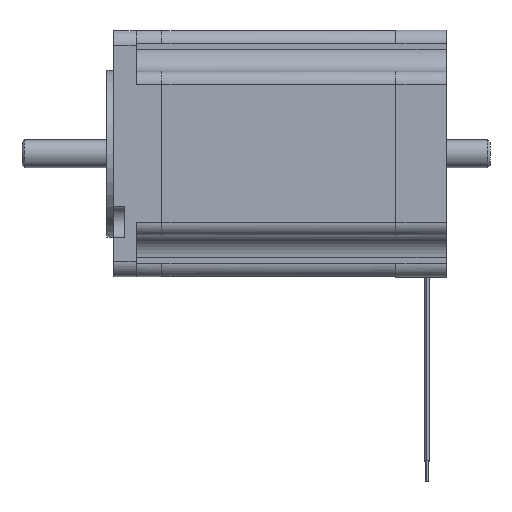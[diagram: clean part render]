
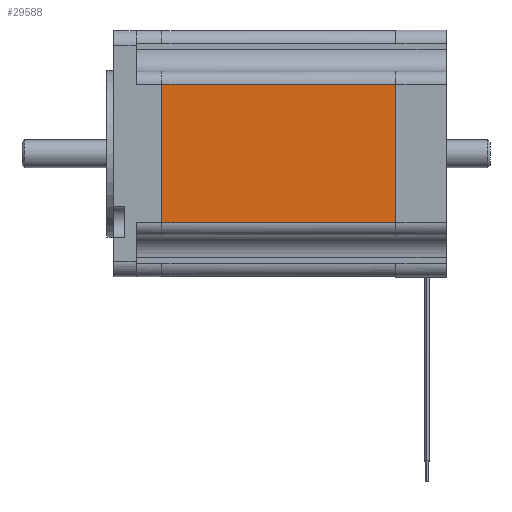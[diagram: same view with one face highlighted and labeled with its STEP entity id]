
A CAD part, top view. The second image highlights one B-rep face of the part: STEP entity #29588.
In plain terms, the highlighted planar face has unit normal (0, 0, 1).
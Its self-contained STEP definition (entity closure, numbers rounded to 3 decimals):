
#10646=CARTESIAN_POINT('',(64.494,15.8,28.1));
#10647=VERTEX_POINT('',#10646);
#10655=CARTESIAN_POINT('',(64.494,-15.8,28.1));
#10656=VERTEX_POINT('',#10655);
#10657=CARTESIAN_POINT('',(64.494,-15.8,28.1));
#10658=DIRECTION('',(0.,1.,0.));
#10659=VECTOR('',#10658,31.6);
#10660=LINE('',#10657,#10659);
#10661=EDGE_CURVE('',#10656,#10647,#10660,.T.);
#29547=CARTESIAN_POINT('',(11.,15.8,28.1));
#29548=VERTEX_POINT('',#29547);
#29556=CARTESIAN_POINT('',(64.494,15.8,28.1));
#29557=DIRECTION('',(-1.,0.,0.));
#29558=VECTOR('',#29557,53.494);
#29559=LINE('',#29556,#29558);
#29560=EDGE_CURVE('',#10647,#29548,#29559,.T.);
#29565=CARTESIAN_POINT('',(81.,0.,28.1));
#29566=DIRECTION('',(0.,1.,0.));
#29567=DIRECTION('',(0.,-0.,1.));
#29568=AXIS2_PLACEMENT_3D('',#29565,#29567,#29566);
#29569=PLANE('',#29568);
#29570=ORIENTED_EDGE('',*,*,#10661,.T.);
#29571=ORIENTED_EDGE('',*,*,#29560,.T.);
#29572=CARTESIAN_POINT('',(11.,-15.8,28.1));
#29573=VERTEX_POINT('',#29572);
#29574=CARTESIAN_POINT('',(11.,15.8,28.1));
#29575=DIRECTION('',(0.,-1.,0.));
#29576=VECTOR('',#29575,31.6);
#29577=LINE('',#29574,#29576);
#29578=EDGE_CURVE('',#29548,#29573,#29577,.T.);
#29579=ORIENTED_EDGE('E1467',*,*,#29578,.T.);
#29580=CARTESIAN_POINT('',(64.494,-15.8,28.1));
#29581=DIRECTION('',(-1.,0.,0.));
#29582=VECTOR('',#29581,53.494);
#29583=LINE('',#29580,#29582);
#29584=EDGE_CURVE('',#10656,#29573,#29583,.T.);
#29585=ORIENTED_EDGE('E4305',*,*,#29584,.F.);
#29586=EDGE_LOOP('',(#29570,#29571,#29579,#29585));
#29587=FACE_OUTER_BOUND('',#29586,.T.);
#29588=ADVANCED_FACE('F2186',(#29587),#29569,.T.);
